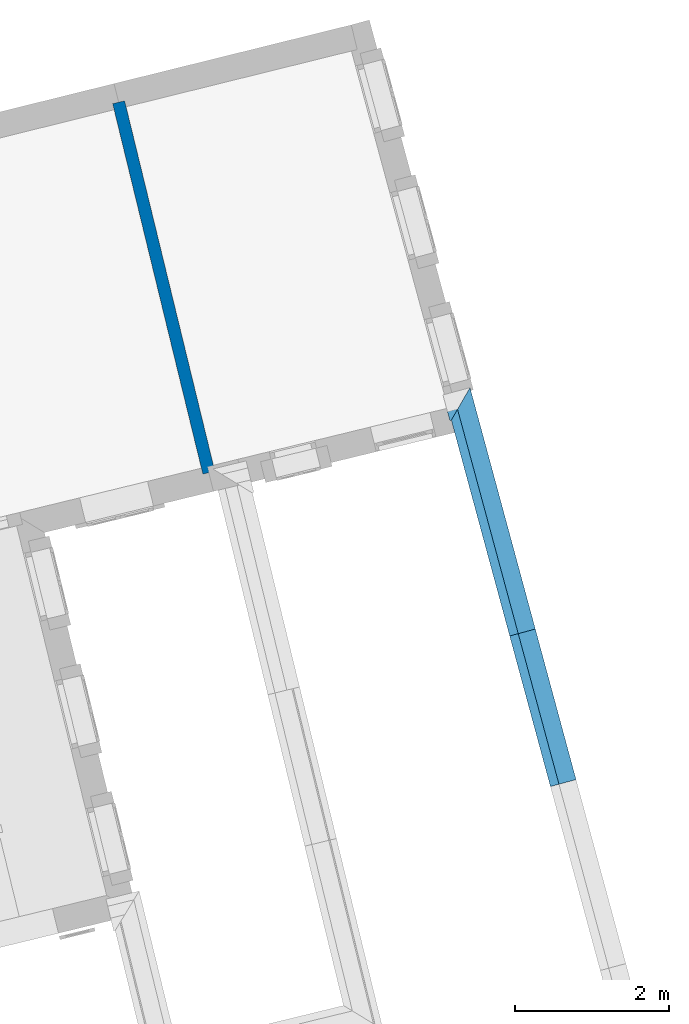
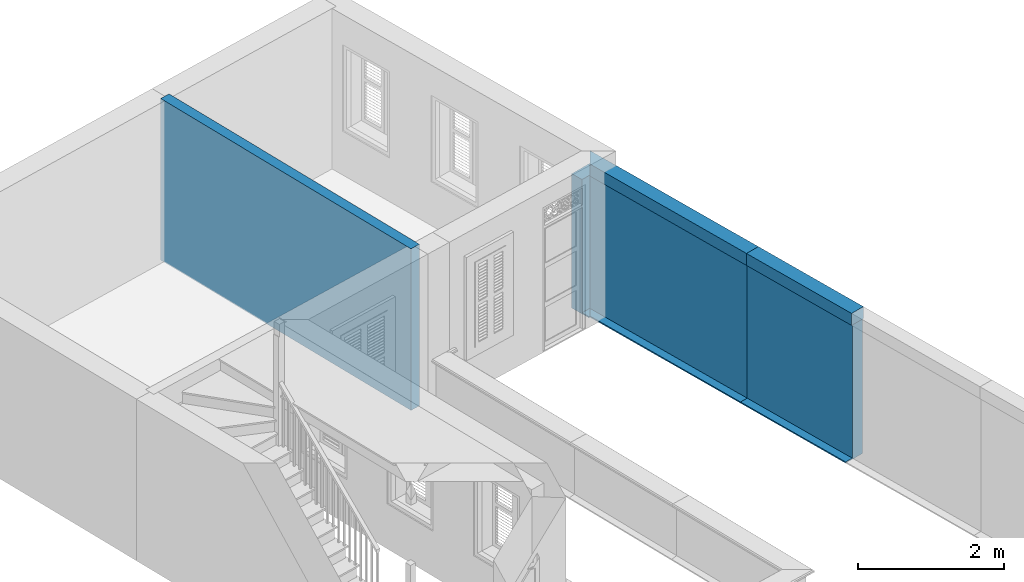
# One storey, part 7 of 9: 6 walls.
"""IFC4 building model written with IfcOpenShell, lengths in metres."""

import ifcopenshell
import ifcopenshell.guid

model = None  # the IFC model being written
_history = None  # IfcOwnerHistory: only IFC2X3 demands one
_inside = {}  # id of a spatial element -> (the spatial element, [elements in it])
_under = {}  # id of a project, library or spatial element -> (it, [spatial elements below it])
_declared = {}  # id of a project -> (the project, [libraries it declares])
_typed = {}  # id of a type object -> (the type object, [elements of that type])
_made_of = {}  # id of a material, layer set ... -> (it, [elements and type objects made of it])


def new_model(schema):
    """Start an empty IFC model of exactly this schema.

    Asked for "IFC4X3", IfcOpenShell would pick the latest addendum, in which some entities
    have other attributes; the version numbers below select the first issue.
    IFC2X3 requires an IfcOwnerHistory on every rooted entity: one is made here for all.
    """
    global model, _history
    if schema == "IFC4X3":
        model = ifcopenshell.file(schema_version=(4, 3, 0, 0))
    else:
        model = ifcopenshell.file(schema=schema)
    _inside.clear()
    _under.clear()
    _declared.clear()
    _typed.clear()
    _made_of.clear()
    _history = None
    if model.schema == "IFC2X3":
        org = make("IfcOrganization", Name="unknown")
        user = make(
            "IfcPersonAndOrganization",
            ThePerson=make("IfcPerson", FamilyName="unknown"),
            TheOrganization=org,
        )
        app = make(
            "IfcApplication",
            ApplicationDeveloper=org,
            Version="unknown",
            ApplicationFullName="unknown",
            ApplicationIdentifier="unknown",
        )
        _history = make(
            "IfcOwnerHistory",
            OwningUser=user,
            OwningApplication=app,
            ChangeAction="ADDED",
            CreationDate=0,
        )
    return model


def make(cls, **values):
    """One entity of the class cls with the attributes given. An attribute that is None is left unset."""
    return model.create_entity(
        cls, **{name: value for name, value in values.items() if value is not None}
    )


def rooted(cls, **values):
    """An entity with a GlobalId (a new one), such as an element, a storey or a relation."""
    return make(cls, GlobalId=ifcopenshell.guid.new(), OwnerHistory=_history, **values)


def si_unit(unit_type, name, prefix=None):
    """IfcSIUnit, for example si_unit("LENGTHUNIT", "METRE", prefix="MILLI")."""
    return make("IfcSIUnit", UnitType=unit_type, Prefix=prefix, Name=name)


def assignment(units):
    """IfcUnitAssignment: the units of a project."""
    return None if units is None else make("IfcUnitAssignment", Units=units)


def point(xyz):
    """IfcCartesianPoint."""
    return None if xyz is None else make("IfcCartesianPoint", Coordinates=xyz)


def direction(xyz):
    """IfcDirection."""
    return None if xyz is None else make("IfcDirection", DirectionRatios=xyz)


def frame(location, z_axis=None, x_axis=None):
    """IfcAxis2Placement3D, a coordinate frame: its origin and axes. An axis left out is left unset."""
    return make(
        "IfcAxis2Placement3D",
        Location=point(location),
        Axis=direction(z_axis),
        RefDirection=direction(x_axis),
    )


def origin_with_axes():
    """The frame at (0, 0, 0) with the z axis (0, 0, 1) and the x axis (1, 0, 0) written out."""
    return frame((0.0, 0.0, 0.0), z_axis=(0.0, 0.0, 1.0), x_axis=(1.0, 0.0, 0.0))


def place(relative_to, where):
    """IfcLocalPlacement: puts the frame where relative to a parent placement (None: the world)."""
    return make(
        "IfcLocalPlacement", PlacementRelTo=relative_to, RelativePlacement=where
    )


def context(
    kind, dimensions, precision=None, world=None, true_north=None, identifier=None
):
    """IfcGeometricRepresentationContext, for example the 3D "Model" context."""
    return make(
        "IfcGeometricRepresentationContext",
        ContextIdentifier=identifier,
        ContextType=kind,
        CoordinateSpaceDimension=dimensions,
        Precision=precision,
        WorldCoordinateSystem=world,
        TrueNorth=true_north,
    )


def subcontext(parent, identifier, kind, view, scale=None):
    """IfcGeometricRepresentationSubContext, for example "Body" below "Model"."""
    return make(
        "IfcGeometricRepresentationSubContext",
        ContextIdentifier=identifier,
        ContextType=kind,
        ParentContext=parent,
        TargetScale=scale,
        TargetView=view,
    )


def project(units=None, contexts=None):
    """IfcProject with its units and contexts."""
    return rooted(
        "IfcProject",
        Name="project",
        RepresentationContexts=contexts,
        UnitsInContext=assignment(units),
    )


def spatial(cls, under=None, at=None, **own):
    """A site, building, storey or space (cls), placed at a placement, below another one or the project."""
    s = rooted(cls, ObjectPlacement=at, **own)
    if under is not None:
        _under.setdefault(under.id(), (under, []))[1].append(s)
    return s


def polyline(points):
    """IfcPolyline through the points."""
    return make("IfcPolyline", Points=[point(p) for p in points])


def outline(outer, holes=None, kind="AREA"):
    """IfcArbitraryClosedProfileDef: a profile drawn as a closed curve; with holes, ...WithVoids."""
    if holes is None:
        return make("IfcArbitraryClosedProfileDef", ProfileType=kind, OuterCurve=outer)
    return make(
        "IfcArbitraryProfileDefWithVoids",
        ProfileType=kind,
        OuterCurve=outer,
        InnerCurves=holes,
    )


def extrude(swept, where, along, depth):
    """IfcExtrudedAreaSolid: the profile swept, set in the frame where, extruded along a direction by depth."""
    return make(
        "IfcExtrudedAreaSolid",
        SweptArea=swept,
        Position=where,
        ExtrudedDirection=direction(along),
        Depth=depth,
    )


def clip(a, b, op="DIFFERENCE"):
    """IfcBooleanClippingResult: the solid a cut by the half space b."""
    return make(
        "IfcBooleanClippingResult", Operator=op, FirstOperand=a, SecondOperand=b
    )


def halfspace(plane, agree):
    """IfcHalfSpaceSolid: all space on one side of the plane z = 0 of the frame plane."""
    return make(
        "IfcHalfSpaceSolid",
        BaseSurface=make("IfcPlane", Position=plane),
        AgreementFlag=agree,
    )


def shape(context_of_items, identifier, shape_type, items):
    """IfcShapeRepresentation: the items that make up one representation, for example the "Body"."""
    return make(
        "IfcShapeRepresentation",
        ContextOfItems=context_of_items,
        RepresentationIdentifier=identifier,
        RepresentationType=shape_type,
        Items=items,
    )


def material(Name=None, Category=None):
    """IfcMaterial."""
    return make("IfcMaterial", Name=Name, Category=Category)


def layer(
    of_material, thickness, ventilated=None, Name=None, Category=None, Priority=None
):
    """IfcMaterialLayer: one layer of a wall or slab, of a material (None: an air gap)."""
    return make(
        "IfcMaterialLayer",
        Material=of_material,
        LayerThickness=thickness,
        IsVentilated=ventilated,
        Name=Name,
        Category=Category,
        Priority=Priority,
    )


def layer_set(layers, Name=None):
    """IfcMaterialLayerSet."""
    return make("IfcMaterialLayerSet", MaterialLayers=layers, LayerSetName=Name)


def layer_usage(for_layer_set, set_direction, sense, offset, extent=None):
    """IfcMaterialLayerSetUsage: how a layer set lies in its element."""
    return make(
        "IfcMaterialLayerSetUsage",
        ForLayerSet=for_layer_set,
        LayerSetDirection=set_direction,
        DirectionSense=sense,
        OffsetFromReferenceLine=offset,
        ReferenceExtent=extent,
    )


def material_profile(
    of_material, cross_section, Name=None, Category=None, Priority=None
):
    """IfcMaterialProfile: a cross section and its material."""
    return make(
        "IfcMaterialProfile",
        Name=Name,
        Material=of_material,
        Profile=cross_section,
        Priority=Priority,
        Category=Category,
    )


def profile_set(profiles, Name=None, composite=None):
    """IfcMaterialProfileSet."""
    return make(
        "IfcMaterialProfileSet",
        Name=Name,
        MaterialProfiles=profiles,
        CompositeProfile=composite,
    )


def profile_usage(for_profile_set, cardinal=None, extent=None):
    """IfcMaterialProfileSetUsage: how a profile set lies along its element."""
    return make(
        "IfcMaterialProfileSetUsage",
        ForProfileSet=for_profile_set,
        CardinalPoint=cardinal,
        ReferenceExtent=extent,
    )


def made_of(thing, what):
    """Note that an element or type object is made of a material, layer set ...; save() writes the relation."""
    if what is not None:
        _made_of.setdefault(what.id(), (what, []))[1].append(thing)
    return thing


def type_object(cls, material=None, **own):
    """A type object (cls), such as IfcWallType, which elements share."""
    return made_of(rooted(cls, **own), material)


def element(
    cls,
    number,
    at=None,
    inside=None,
    cuts=None,
    type_object=None,
    material=None,
    context=None,
    identifier="Body",
    shape_type=None,
    held_by="IfcProductDefinitionShape",
    body=None,
    shapes=None,
    **own,
):
    """One element of the class cls, such as IfcWall. Its Tag is "e" and its number.

    at: its placement. inside: the storey or other place that contains it. cuts: it is an
    opening in that element (IfcRelVoidsElement). A single representation is given by context,
    identifier, shape_type and body (its items); several are given by shapes. held_by: the class
    of the entity that holds the representations. save() writes the other relations.
    """
    e = rooted(cls, Tag="e%d" % number, ObjectPlacement=at, **own)
    if body is not None:
        shapes = [shape(context, identifier, shape_type, body)]
    if shapes is not None:
        e.Representation = make(held_by, Representations=shapes)
    if inside is not None:
        _inside.setdefault(inside.id(), (inside, []))[1].append(e)
    if cuts is not None:
        rooted(
            "IfcRelVoidsElement", RelatingBuildingElement=cuts, RelatedOpeningElement=e
        )
    if type_object is not None:
        _typed.setdefault(type_object.id(), (type_object, []))[1].append(e)
    return made_of(e, material)


def aggregate(whole, parts):
    """IfcRelAggregates: a whole, such as a stair, and the parts it consists of."""
    return rooted("IfcRelAggregates", RelatingObject=whole, RelatedObjects=parts)


def save(model, path):
    """Write the relations noted so far, then the file.

    IfcRelAggregates (storeys below a building ...), IfcRelContainedInSpatialStructure (elements
    in a storey), IfcRelDefinesByType, IfcRelAssociatesMaterial and IfcRelDeclares: one each for
    every whole, place, type object, material and project.
    """
    for whole, parts in _under.values():
        aggregate(whole, parts)
    for where, things in _inside.values():
        rooted(
            "IfcRelContainedInSpatialStructure",
            RelatedElements=things,
            RelatingStructure=where,
        )
    for kind, things in _typed.values():
        rooted("IfcRelDefinesByType", RelatedObjects=things, RelatingType=kind)
    for what, things in _made_of.values():
        rooted("IfcRelAssociatesMaterial", RelatedObjects=things, RelatingMaterial=what)
    for by, libraries in _declared.values():
        rooted("IfcRelDeclares", RelatingContext=by, RelatedDefinitions=libraries)
    model.write(path)


model = new_model("IFC4")

# Units and contexts
model_context = context("Model", 3, world=origin_with_axes())
body_context = subcontext(model_context, "Body", "Model", "MODEL_VIEW")
ifc_project = project(units=[si_unit("PLANEANGLEUNIT", "RADIAN"), si_unit("MASSUNIT", "GRAM", prefix="KILO"), si_unit("FORCEUNIT", "NEWTON", prefix="KILO"), si_unit("LENGTHUNIT", "METRE"), si_unit("AREAUNIT", "SQUARE_METRE"), si_unit("VOLUMEUNIT", "CUBIC_METRE")], contexts=[model_context, model_context])

# Site, building, storey
site_placement = place(None, origin_with_axes())
site = spatial("IfcSite", under=ifc_project, at=site_placement, Name="Site plot-4", CompositionType="ELEMENT")
building_placement = place(None, origin_with_axes())
building = spatial("IfcBuilding", under=site, at=building_placement, Name="Building plot-4", CompositionType="ELEMENT")
storey_placement = place(None, frame((0.0, 0.0, 2.7), z_axis=(0.0, 0.0, 1.0), x_axis=(1.0, 0.0, 0.0)))
storey = spatial("IfcBuildingStorey", under=building, at=storey_placement, Name="plot-4 1", CompositionType="ELEMENT", Elevation=2.7)

# Walls
ifc_material = material(Name="Masonry")
ifc_layer = layer(ifc_material, 0.16, ventilated=False)
ifc_layer_set = layer_set([ifc_layer], Name="interior_0.08_0.08")
ifc_layer_usage = layer_usage(ifc_layer_set, "AXIS2", "POSITIVE", -0.08)
wall_type_1 = type_object("IfcWallType", Name="interior_0.08_0.08", PredefinedType="SOLIDWALL", material=ifc_layer_set)
wall_1_placement = place(storey_placement, frame((22.2331143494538, 20.4401934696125, 0.0), z_axis=(0.0, 0.0, 1.0), x_axis=(0.236608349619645, -0.971605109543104, 0.0)))
element("IfcWall", 1, at=wall_1_placement, inside=storey, type_object=wall_type_1, material=ifc_layer_usage, Name="interior", context=body_context, shape_type="SweptSolid", body=[
    extrude(outline(polyline([(-3.14845643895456e-16, 0.0800000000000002), (2.69521332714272e-16, -0.0800000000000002), (4.96117739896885, -0.0800000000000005), (4.96117739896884, 0.0799999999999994), (-3.14845643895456e-16, 0.0800000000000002)])), origin_with_axes(), (0.0, 0.0, 1.0), 2.7),
])
ifc_material_profile_1 = material_profile(None, outline(polyline([(0.25, 0.0), (0.25, 2.245), (0.05, 2.245), (0.05, 0.02), (-0.08, 0.02), (-0.08, 0.0), (0.25, 0.0)])))
ifc_profile_set_1 = profile_set([ifc_material_profile_1])
ifc_profile_usage_1 = profile_usage(ifc_profile_set_1)
wall_type_2 = type_object("IfcWallType", Name="parapet street_0", PredefinedType="PARAPET", material=ifc_profile_set_1)
wall_2_placement = place(storey_placement, frame((27.1378996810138, 14.4815475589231, 0.0), z_axis=(0.261170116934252, -0.965292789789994, 0.0), x_axis=(0.965292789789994, 0.261170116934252, 0.0)))
element("IfcWall", 2, at=wall_2_placement, inside=storey, type_object=wall_type_2, material=ifc_profile_usage_1, Name="parapet street_0", context=body_context, shape_type="Clipping", body=[
    clip(clip(extrude(outline(polyline([(0.25, 0.0), (0.25, 2.245), (0.05, 2.245), (0.05, 0.02), (-0.08, 0.02), (-0.08, 0.0), (0.25, 0.0)])), origin_with_axes(), (0.0, 0.0, 1.0), 4.02945493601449), halfspace(frame((0.0, 0.0, 3.02945493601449), z_axis=(-6.05643667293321e-15, 0.0, -1.0), x_axis=(0.0, 1.0, 0.0)), True)), halfspace(frame((0.0, 0.0, 1.0), z_axis=(-6.12323399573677e-17, 0.0, -1.0), x_axis=(0.0, 1.0, 0.0)), False)),
])
ifc_profile_usage_2 = profile_usage(ifc_profile_set_1)
wall_3_placement = place(storey_placement, frame((26.3571508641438, 17.3672192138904, 0.0), z_axis=(0.261170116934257, -0.965292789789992, 0.0), x_axis=(0.965292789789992, 0.261170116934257, 0.0)))
element("IfcWall", 3, at=wall_3_placement, inside=storey, type_object=wall_type_2, material=ifc_profile_usage_2, Name="parapet street_0", context=body_context, shape_type="Clipping", body=[
    clip(clip(extrude(outline(polyline([(0.25, 0.0), (0.25, 2.245), (0.05, 2.245), (0.05, 0.02), (-0.08, 0.02), (-0.08, 0.0), (0.25, 0.0)])), origin_with_axes(), (0.0, 0.0, 1.0), 4.98942630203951), halfspace(frame((0.0, 0.0, 3.98942630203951), z_axis=(5.26783817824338e-15, 0.0, -1.0), x_axis=(0.0, 1.0, 0.0)), True)), halfspace(frame((0.0, 0.0, 1.0), z_axis=(-0.707106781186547, 0.0, -0.707106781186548), x_axis=(0.0, 1.0, 0.0)), False)),
])
ifc_profile_usage_3 = profile_usage(ifc_profile_set_1)
wall_4_placement = place(storey_placement, frame((25.5564989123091, 16.1146392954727, 0.0), z_axis=(0.965292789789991, 0.261170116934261, 0.0), x_axis=(-0.261170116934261, 0.965292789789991, 0.0)))
element("IfcWall", 4, at=wall_4_placement, inside=storey, type_object=wall_type_2, material=ifc_profile_usage_3, Name="parapet street_0", context=body_context, shape_type="Clipping", body=[
    clip(clip(extrude(outline(polyline([(0.25, 0.0), (0.25, 2.245), (0.05, 2.245), (0.05, 0.02), (-0.08, 0.02), (-0.08, 0.0), (0.25, 0.0)])), origin_with_axes(), (0.0, 0.0, 1.0), 2.1), halfspace(frame((0.0, 0.0, 1.1), z_axis=(0.707106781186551, 0.0, -0.707106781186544), x_axis=(0.0, 1.0, 0.0)), True)), halfspace(frame((0.0, 0.0, 1.0), z_axis=(-1.83758917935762e-15, 0.0, -1.0), x_axis=(0.0, 1.0, 0.0)), False)),
])
ifc_material_profile_2 = material_profile(None, outline(polyline([(0.265, 2.245), (0.265, 2.445), (0.035, 2.445), (0.035, 2.245), (0.265, 2.245)])))
ifc_profile_set_2 = profile_set([ifc_material_profile_2])
ifc_profile_usage_4 = profile_usage(ifc_profile_set_2)
wall_type_3 = type_object("IfcWallType", Name="parapet street_1", PredefinedType="PARAPET", material=ifc_profile_set_2)
wall_5_placement = place(storey_placement, frame((27.1378996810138, 14.4815475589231, 0.0), z_axis=(0.261170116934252, -0.965292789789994, 0.0), x_axis=(0.965292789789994, 0.261170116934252, 0.0)))
element("IfcWall", 5, at=wall_5_placement, inside=storey, type_object=wall_type_3, material=ifc_profile_usage_4, Name="parapet street_1", context=body_context, shape_type="Clipping", body=[
    clip(clip(extrude(outline(polyline([(0.265, 2.245), (0.265, 2.445), (0.035, 2.445), (0.035, 2.245), (0.265, 2.245)])), origin_with_axes(), (0.0, 0.0, 1.0), 4.02945493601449), halfspace(frame((0.0, 0.0, 3.02945493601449), z_axis=(-6.05643667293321e-15, 0.0, -1.0), x_axis=(0.0, 1.0, 0.0)), True)), halfspace(frame((0.0, 0.0, 1.0), z_axis=(-6.12323399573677e-17, 0.0, -1.0), x_axis=(0.0, 1.0, 0.0)), False)),
])
ifc_profile_usage_5 = profile_usage(ifc_profile_set_2)
wall_6_placement = place(storey_placement, frame((26.3571508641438, 17.3672192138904, 0.0), z_axis=(0.261170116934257, -0.965292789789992, 0.0), x_axis=(0.965292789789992, 0.261170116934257, 0.0)))
element("IfcWall", 6, at=wall_6_placement, inside=storey, type_object=wall_type_3, material=ifc_profile_usage_5, Name="parapet street_1", context=body_context, shape_type="Clipping", body=[
    clip(clip(extrude(outline(polyline([(0.265, 2.245), (0.265, 2.445), (0.035, 2.445), (0.035, 2.245), (0.265, 2.245)])), origin_with_axes(), (0.0, 0.0, 1.0), 4.98942630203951), halfspace(frame((0.0, 0.0, 3.98942630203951), z_axis=(5.26783817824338e-15, 0.0, -1.0), x_axis=(0.0, 1.0, 0.0)), True)), halfspace(frame((0.0, 0.0, 1.0), z_axis=(-0.707106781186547, 0.0, -0.707106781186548), x_axis=(0.0, 1.0, 0.0)), False)),
])

save(model, "model.ifc")
